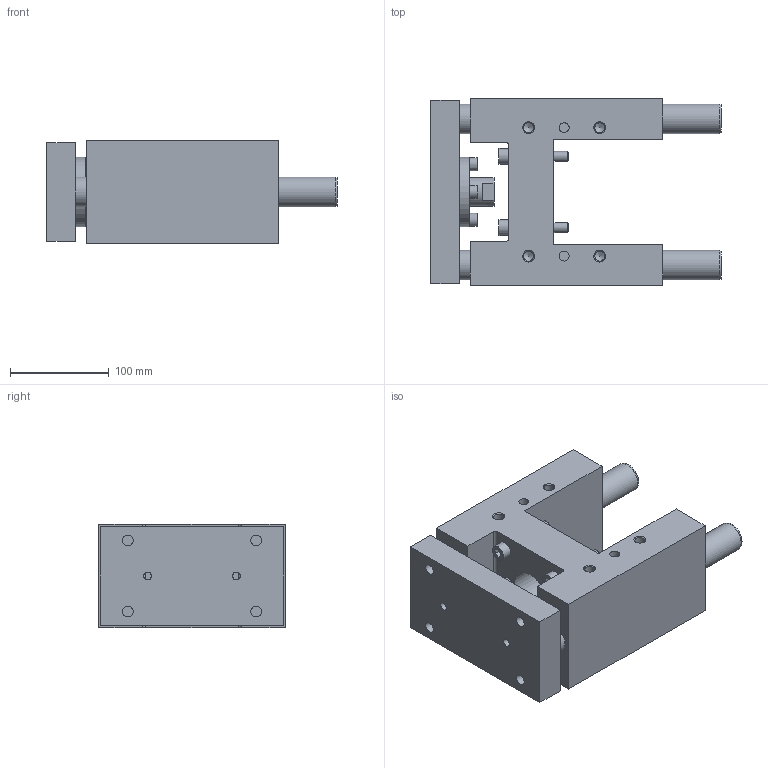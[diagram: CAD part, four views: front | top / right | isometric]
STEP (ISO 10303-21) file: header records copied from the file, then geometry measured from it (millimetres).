
FILE_DESCRIPTION( ( 'STEP AP214' ), '1' );
FILE_NAME( 'U:/Etudes/Top Solid/BIBLIO 3D AVM/TOP/PNEUMATIQUE/GUIDAGES/Type 32 (en H)/R_Renforcée/328R0130.step', '2005-05-27T09:09:45', ( ' ' ), ( ' ' ), 'XStep 1.0', ' ', ' ' );
FILE_SCHEMA( ( 'automotive_design' ) );
Length unit declared in the file: metre
Products named in the file (2): 1; 2
Bounding box: 294 x 189 x 105 mm (x, y, z)
Volume: 2808842.1 mm3; surface area: 336369.5 mm2
Topology: 2 solids, 7 shells, 209 faces, 472 edges, 313 vertices
Faces by surface type: plane 118, cylinder 70, cone 21
Full cylindrical faces by diameter (mm): 8 x10, 8.5 x4, 10 x10, 10.106 x12, 11 x8, 13 x4, 16 x4, 18 x4, 18.376 x2, 29 x1, 30 x4, 32 x1, 42 x1, 45 x2, 70 x1
Entity records: 7075 total; most frequent: CARTESIAN_POINT 1101, DIRECTION 894, ORIENTED_EDGE 690, EDGE_LOOP 362, AXIS2_PLACEMENT_3D 346, EDGE_CURVE 345, VERTEX_POINT 281, FACE_OUTER_BOUND 277
